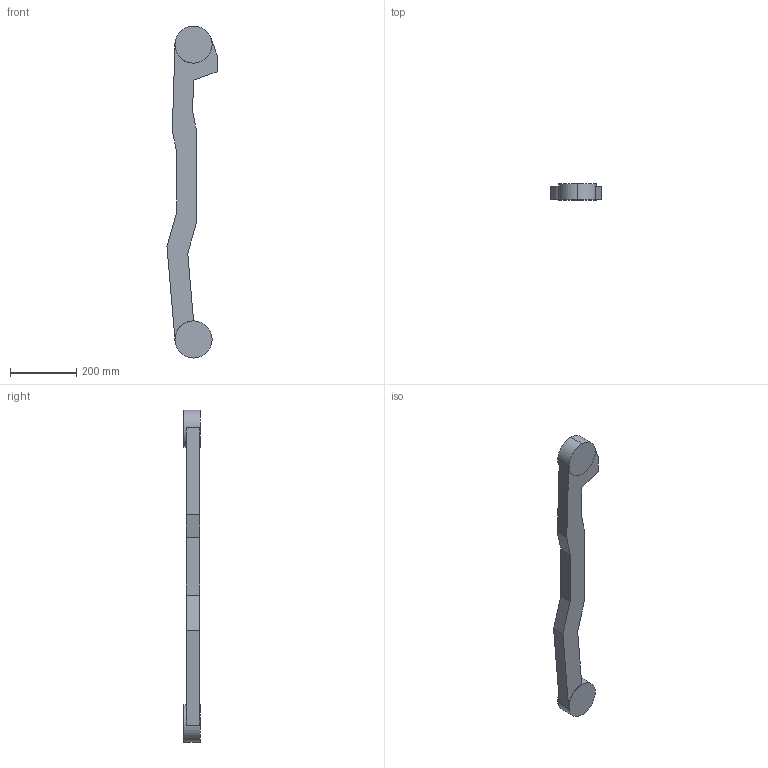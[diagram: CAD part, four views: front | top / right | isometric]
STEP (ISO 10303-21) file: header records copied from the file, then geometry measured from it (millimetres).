
FILE_DESCRIPTION (( 'STEP AP214' ), '1' );
FILE_NAME ('IRB4400_60_m2000_rev1_01-7.STEP', '2001-11-21T06:40:18', ( 'Jonas Eriksson' ), ( 'Evotech Engineering AB' ), 'SwSTEP 2.0', 'SolidWorks 2001287', '' );
FILE_SCHEMA (( 'AUTOMOTIVE_DESIGN' ));
Length unit declared in the file: millimetre
Products named in the file (1): IRB4400_60_m2000_rev1_01-7
Bounding box: 151.33 x 48.5 x 1002 mm (x, y, z)
Volume: 3123074.5 mm3; surface area: 242923.6 mm2
Topology: 1 solids, 1 shells, 23 faces, 61 edges, 40 vertices
Faces by surface type: plane 19, cylinder 4
Entity records: 736 total; most frequent: CARTESIAN_POINT 125, DIRECTION 123, ORIENTED_EDGE 122, EDGE_CURVE 61, LINE 47, VECTOR 47, VERTEX_POINT 40, AXIS2_PLACEMENT_3D 38
